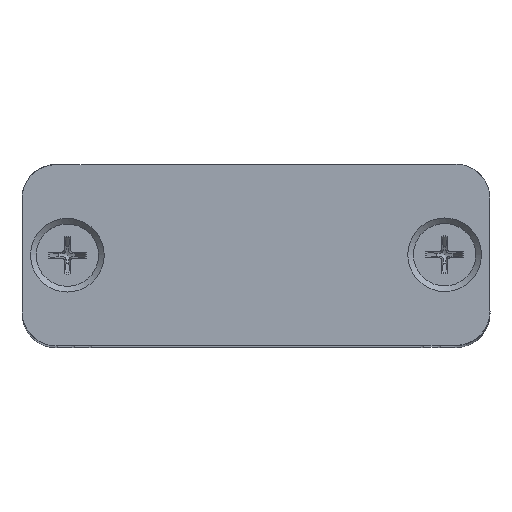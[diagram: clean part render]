
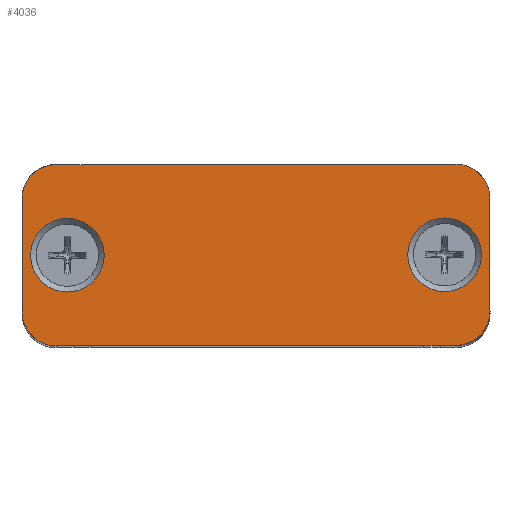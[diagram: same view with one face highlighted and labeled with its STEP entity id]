
A CAD part, top view. The second image highlights one B-rep face of the part: STEP entity #4036.
In plain terms, the highlighted planar face has unit normal (0, 0, 1).
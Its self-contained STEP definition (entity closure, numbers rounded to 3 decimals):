
#3646=CARTESIAN_POINT('',(-29.557,9.942,2.0));
#3647=VERTEX_POINT('',#3646);
#3648=CARTESIAN_POINT('',(-32.807,9.942,2.0));
#3649=DIRECTION('',(0.0,0.0,-1.0));
#3650=DIRECTION('',(1.0,0.0,0.0));
#3651=AXIS2_PLACEMENT_3D('',#3648,#3649,#3650);
#3652=CIRCLE('',#3651,3.25);
#3653=EDGE_CURVE('',#3647,#3647,#3652,.T.);
#3694=CARTESIAN_POINT('',(3.743,9.942,2.0));
#3695=VERTEX_POINT('',#3694);
#3696=CARTESIAN_POINT('',(0.493,9.942,2.0));
#3697=DIRECTION('',(0.0,0.0,-1.0));
#3698=DIRECTION('',(1.0,0.0,0.0));
#3699=AXIS2_PLACEMENT_3D('',#3696,#3697,#3698);
#3700=CIRCLE('',#3699,3.25);
#3701=EDGE_CURVE('',#3695,#3695,#3700,.T.);
#3742=CARTESIAN_POINT('',(-33.807,17.942,2.0));
#3743=VERTEX_POINT('',#3742);
#3744=CARTESIAN_POINT('',(1.493,17.942,2.0));
#3745=VERTEX_POINT('',#3744);
#3746=CARTESIAN_POINT('',(-33.807,17.942,2.0));
#3747=DIRECTION('',(1.0,0.0,0.0));
#3748=VECTOR('',#3747,35.3);
#3749=LINE('',#3746,#3748);
#3750=EDGE_CURVE('',#3743,#3745,#3749,.T.);
#3782=CARTESIAN_POINT('',(4.493,14.942,2.0));
#3783=VERTEX_POINT('',#3782);
#3784=CARTESIAN_POINT('',(1.493,14.942,2.0));
#3785=DIRECTION('',(0.0,0.0,-1.0));
#3786=DIRECTION('',(1.0,0.0,0.0));
#3787=AXIS2_PLACEMENT_3D('',#3784,#3785,#3786);
#3788=CIRCLE('',#3787,3.0);
#3789=EDGE_CURVE('',#3745,#3783,#3788,.T.);
#3815=CARTESIAN_POINT('',(4.493,4.942,2.0));
#3816=VERTEX_POINT('',#3815);
#3817=CARTESIAN_POINT('',(4.493,14.942,2.0));
#3818=DIRECTION('',(0.0,-1.0,0.0));
#3819=VECTOR('',#3818,10.0);
#3820=LINE('',#3817,#3819);
#3821=EDGE_CURVE('',#3783,#3816,#3820,.T.);
#3846=CARTESIAN_POINT('',(1.493,1.942,2.0));
#3847=VERTEX_POINT('',#3846);
#3848=CARTESIAN_POINT('',(1.493,4.942,2.0));
#3849=DIRECTION('',(0.0,0.0,-1.0));
#3850=DIRECTION('',(0.0,-1.0,0.0));
#3851=AXIS2_PLACEMENT_3D('',#3848,#3849,#3850);
#3852=CIRCLE('',#3851,3.0);
#3853=EDGE_CURVE('',#3816,#3847,#3852,.T.);
#3879=CARTESIAN_POINT('',(-33.807,1.942,2.0));
#3880=VERTEX_POINT('',#3879);
#3881=CARTESIAN_POINT('',(1.493,1.942,2.0));
#3882=DIRECTION('',(-1.0,0.0,0.0));
#3883=VECTOR('',#3882,35.3);
#3884=LINE('',#3881,#3883);
#3885=EDGE_CURVE('',#3847,#3880,#3884,.T.);
#3910=CARTESIAN_POINT('',(-36.807,4.942,2.0));
#3911=VERTEX_POINT('',#3910);
#3912=CARTESIAN_POINT('',(-33.807,4.942,2.0));
#3913=DIRECTION('',(0.0,0.0,-1.0));
#3914=DIRECTION('',(-1.0,0.0,0.0));
#3915=AXIS2_PLACEMENT_3D('',#3912,#3913,#3914);
#3916=CIRCLE('',#3915,3.0);
#3917=EDGE_CURVE('',#3880,#3911,#3916,.T.);
#3943=CARTESIAN_POINT('',(-36.807,14.942,2.0));
#3944=VERTEX_POINT('',#3943);
#3945=CARTESIAN_POINT('',(-36.807,4.942,2.0));
#3946=DIRECTION('',(0.0,1.0,0.0));
#3947=VECTOR('',#3946,10.);
#3948=LINE('',#3945,#3947);
#3949=EDGE_CURVE('',#3911,#3944,#3948,.T.);
#3974=CARTESIAN_POINT('',(-33.807,14.942,2.0));
#3975=DIRECTION('',(0.0,0.0,-1.0));
#3976=DIRECTION('',(0.0,1.0,0.0));
#3977=AXIS2_PLACEMENT_3D('',#3974,#3975,#3976);
#3978=CIRCLE('',#3977,3.0);
#3979=EDGE_CURVE('',#3944,#3743,#3978,.T.);
#4015=CARTESIAN_POINT('',(-16.157,9.942,2.0));
#4016=DIRECTION('',(0.0,0.0,1.0));
#4017=DIRECTION('',(1.0,0.0,0.0));
#4018=AXIS2_PLACEMENT_3D('',#4015,#4016,#4017);
#4019=PLANE('',#4018);
#4020=ORIENTED_EDGE('',*,*,#3750,.F.);
#4021=ORIENTED_EDGE('',*,*,#3979,.F.);
#4022=ORIENTED_EDGE('',*,*,#3949,.F.);
#4023=ORIENTED_EDGE('',*,*,#3917,.F.);
#4024=ORIENTED_EDGE('',*,*,#3885,.F.);
#4025=ORIENTED_EDGE('',*,*,#3853,.F.);
#4026=ORIENTED_EDGE('',*,*,#3821,.F.);
#4027=ORIENTED_EDGE('',*,*,#3789,.F.);
#4028=EDGE_LOOP('',(#4020,#4021,#4022,#4023,#4024,#4025,#4026,#4027));
#4029=FACE_OUTER_BOUND('',#4028,.T.);
#4030=ORIENTED_EDGE('',*,*,#3653,.T.);
#4031=EDGE_LOOP('',(#4030));
#4032=FACE_BOUND('',#4031,.T.);
#4033=ORIENTED_EDGE('',*,*,#3701,.T.);
#4034=EDGE_LOOP('',(#4033));
#4035=FACE_BOUND('',#4034,.T.);
#4036=ADVANCED_FACE('',(#4029,#4032,#4035),#4019,.T.);
